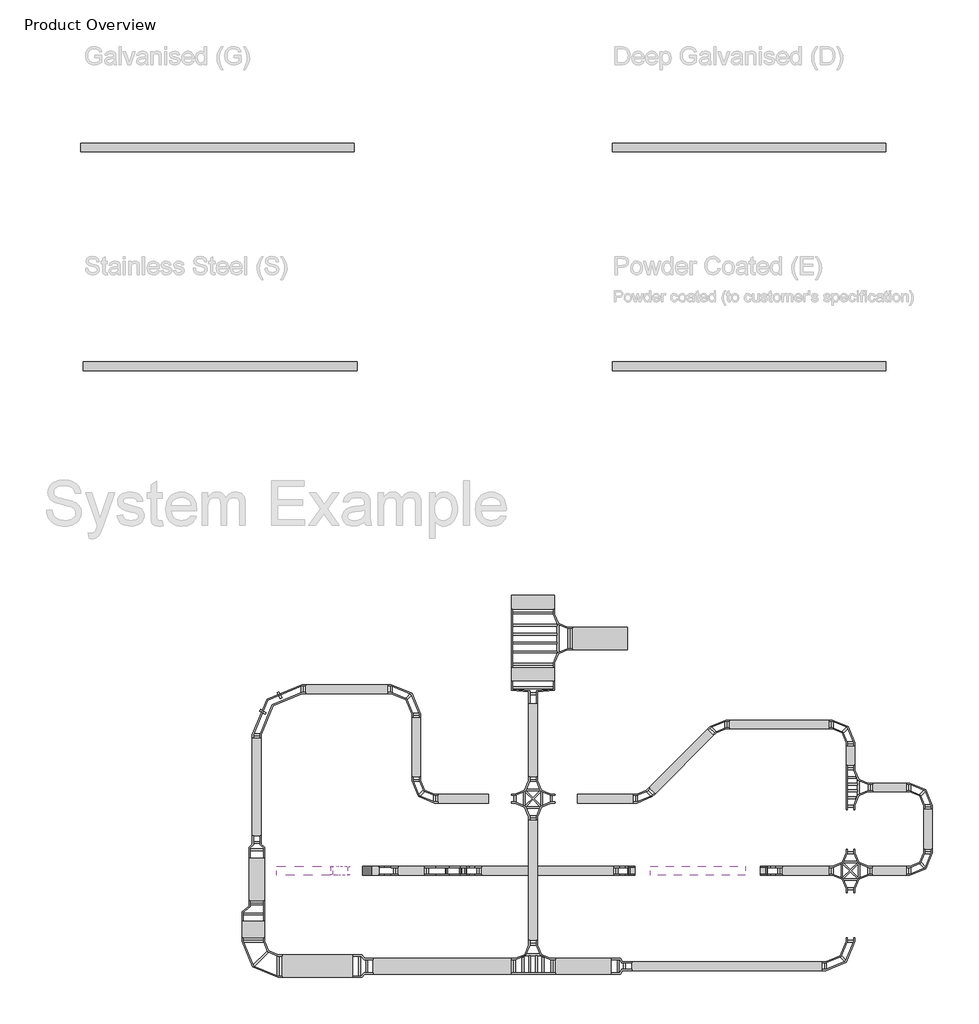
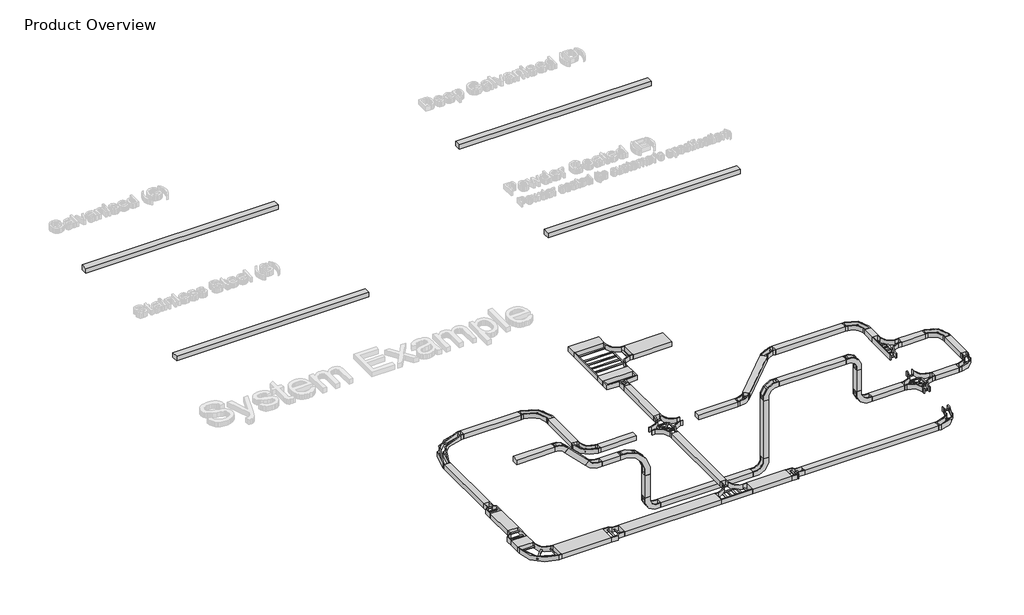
# One storey, part 1 of 11: 35 cable carrier segments, 28 cable carrier fittings.
"""IFC4 building model written with IfcOpenShell, lengths in millimetres."""

from ifc_helpers import new_model, si_unit, frame, origin, place, context, project, spatial, polyline, outline, extrude, transform, mapped, element, save
from components import cable_carrier_fitting_b2991533, cable_carrier_fitting_7aac4970, cable_carrier_fitting_337bc745, cable_carrier_fitting_0715c1ba, cable_carrier_fitting_e11d2789, cable_carrier_fitting_81220605, cable_carrier_fitting_d58a4867, cable_carrier_fitting_db6fad4b, cable_carrier_fitting_f09b7f1c, cable_carrier_fitting_0d3864c6, cable_carrier_fitting_0d86ed4e, cable_carrier_fitting_d8a74605, cable_carrier_fitting_7b7ebac5, cable_carrier_fitting_dfb7f23c, cable_carrier_fitting_bd5dcc2e, cable_carrier_fitting_78e4e9d0, cable_carrier_fitting_687db9e6, cable_carrier_fitting_c8b575a0, cable_carrier_fitting_745f889b

model = new_model("IFC4")

# Units and contexts
model_context = context("Model", 3, world=origin())
ifc_project = project(units=[si_unit("LENGTHUNIT", "METRE", prefix="MILLI")], contexts=[model_context])

# Site, building, storey
site = spatial("IfcSite", under=ifc_project)
building = spatial("IfcBuilding", under=site)
storey = spatial("IfcBuildingStorey", under=building, Name="Product Overview", Elevation=0.0)

# Cable carrier fittings
placement = place(None, origin())
cable_carrier_fitting_shape = cable_carrier_fitting_b2991533(model_context)
element("IfcCableCarrierFitting", 1, ObjectType="Legrand_CableLadder_Swifts_Emerald_FlatBend-13 : Hot Dip Galvanised (after manufacture)", at=placement, inside=storey, context=model_context, shape_type="MappedRepresentation", body=[
    mapped(cable_carrier_fitting_shape, transform((769.4867392, -27158.3924525, 0.0), x_axis=(0.0, 1.0, 0.0), y_axis=(-1.0, 0.0, 0.0), z_axis=(0.0, 0.0, 1.0))),
])
element("IfcCableCarrierFitting", 2, ObjectType="Legrand_CableLadder_Swifts_Emerald_FlatBend-13 : Hot Dip Galvanised (after manufacture)", at=placement, inside=storey, context=model_context, shape_type="MappedRepresentation", body=[
    mapped(cable_carrier_fitting_shape, transform((2469.4867392, -28541.3980362, 0.0), x_axis=(0.0, 1.0, 0.0), y_axis=(-1.0, 0.0, 0.0), z_axis=(0.0, 0.0, 1.0))),
])
element("IfcCableCarrierFitting", 3, ObjectType="Legrand_CableLadder_Swifts_Emerald_FlatBend-13 : Hot Dip Galvanised (after manufacture)", at=placement, inside=storey, context=model_context, shape_type="MappedRepresentation", body=[
    mapped(cable_carrier_fitting_shape, transform((2469.4867392, -30366.3980362, 0.0), x_axis=(1.0, 0.0, 0.0), y_axis=(0.0, 1.0, 0.0), z_axis=(0.0, 0.0, 1.0))),
])
element("IfcCableCarrierFitting", 4, ObjectType="Legrand_CableLadder_Swifts_Emerald_FlatBend-13 : Hot Dip Galvanised (after manufacture)", at=placement, inside=storey, context=model_context, shape_type="MappedRepresentation", body=[
    mapped(cable_carrier_fitting_shape, transform((-8756.8588576, -28784.7380492, 0.0), x_axis=(0.0, -1.0, 0.0), y_axis=(1.0, 0.0, 0.0), z_axis=(0.0, 0.0, 1.0))),
])
cable_carrier_fitting_2_shape = cable_carrier_fitting_7aac4970(model_context)
element("IfcCableCarrierFitting", 5, ObjectType="Legrand_CableLadder_Swifts_Emerald_FlatBend-13 : Hot Dip Galvanised (after manufacture)", at=placement, inside=storey, context=model_context, shape_type="MappedRepresentation", body=[
    mapped(cable_carrier_fitting_2_shape, transform((-2130.5132608, -27158.3924525, 0.0), x_axis=(-1.0, 0.0, 0.0), y_axis=(0.0, -1.0, 0.0), z_axis=(0.0, 0.0, 1.0))),
])
element("IfcCableCarrierFitting", 6, ObjectType="Legrand_CableLadder_Swifts_Emerald_FlatBend-13 : Hot Dip Galvanised (after manufacture)", at=placement, inside=storey, context=model_context, shape_type="MappedRepresentation", body=[
    mapped(cable_carrier_fitting_2_shape, transform((-3756.8588576, -28784.7380492, 0.0), x_axis=(1.0, 0.0, 0.0), y_axis=(0.0, 1.0, 0.0), z_axis=(0.0, 0.0, 1.0))),
])
cable_carrier_fitting_3_shape = cable_carrier_fitting_337bc745(model_context)
element("IfcCableCarrierFitting", 7, ObjectType="Legrand_CableLadder_Swifts_Emerald_FlatBend-13 : Hot Dip Galvanised (after manufacture)", at=placement, inside=storey, context=model_context, shape_type="MappedRepresentation", body=[
    mapped(cable_carrier_fitting_3_shape, transform((-8756.8588576, -26384.7380492, 0.0), x_axis=(0.0, 1.0, 0.0), y_axis=(-1.0, 0.0, 0.0), z_axis=(0.0, 0.0, 1.0))),
])
element("IfcCableCarrierFitting", 8, ObjectType="Legrand_CableLadder_Swifts_Emerald_FlatBend-13 : Hot Dip Galvanised (after manufacture)", at=placement, inside=storey, context=model_context, shape_type="MappedRepresentation", body=[
    mapped(cable_carrier_fitting_3_shape, transform((769.4867392, -32458.3924525, 0.0), x_axis=(1.0, 0.0, 0.0), y_axis=(0.0, 1.0, 0.0), z_axis=(0.0, 0.0, 1.0))),
])
cable_carrier_fitting_4_shape = cable_carrier_fitting_0715c1ba(model_context)
element("IfcCableCarrierFitting", 9, ObjectType="Legrand_CableLadder_Swifts_Emerald_FlatBend-13 : Hot Dip Galvanised (after manufacture)", at=placement, inside=storey, context=model_context, shape_type="MappedRepresentation", body=[
    mapped(cable_carrier_fitting_4_shape, transform((-12330.5132608, -32458.3924525, 0.0), x_axis=(0.0, -1.0, 0.0), y_axis=(1.0, 0.0, 0.0), z_axis=(0.0, 0.0, 1.0))),
])
cable_carrier_fitting_5_shape = cable_carrier_fitting_e11d2789(model_context)
element("IfcCableCarrierFitting", 10, ObjectType="Legrand_CableLadder_Swifts_Emerald_InsideRiser-13 : Hot Dip Galvanised (after manufacture)", at=placement, inside=storey, context=model_context, shape_type="MappedRepresentation", body=[
    mapped(cable_carrier_fitting_5_shape, transform((-1130.5132608, -30366.3980362, 0.0), x_axis=(-1.0, 0.0, 0.0), y_axis=(0.0, 0.0, 1.0), z_axis=(0.0, 1.0, 0.0))),
])
element("IfcCableCarrierFitting", 11, ObjectType="Legrand_CableLadder_Swifts_Emerald_InsideRiser-13 : Hot Dip Galvanised (after manufacture)", at=placement, inside=storey, context=model_context, shape_type="MappedRepresentation", body=[
    mapped(cable_carrier_fitting_5_shape, transform((-4030.5132608, -30366.3980362, -1200.0), x_axis=(0.0, 0.0, -1.0), y_axis=(-1.0, 0.0, 0.0), z_axis=(0.0, 1.0, 0.0))),
])
element("IfcCableCarrierFitting", 12, ObjectType="Legrand_CableLadder_Swifts_Emerald_InsideRiser-13 : Hot Dip Galvanised (after manufacture)", at=placement, inside=storey, context=model_context, shape_type="MappedRepresentation", body=[
    mapped(cable_carrier_fitting_5_shape, transform((-7730.5132608, -30366.3980362, -1200.0), x_axis=(-1.0, 0.0, 0.0), y_axis=(0.0, 0.0, 1.0), z_axis=(0.0, 1.0, 0.0))),
])
cable_carrier_fitting_6_shape = cable_carrier_fitting_81220605(model_context)
element("IfcCableCarrierFitting", 13, ObjectType="Legrand_CableLadder_Swifts_Emerald_InsideRiser-13 : Hot Dip Galvanised (after manufacture)", at=placement, inside=storey, context=model_context, shape_type="MappedRepresentation", body=[
    mapped(cable_carrier_fitting_6_shape, transform((-9430.5132608, -30366.3980362, 800.0), x_axis=(-1.0, 0.0, 0.0), y_axis=(0.0, 0.0, 1.0), z_axis=(0.0, 1.0, 0.0))),
])
cable_carrier_fitting_7_shape = cable_carrier_fitting_d58a4867(model_context)
element("IfcCableCarrierFitting", 14, ObjectType="Legrand_CableLadder_Swifts_Emerald_OutsideRiser-13 : Hot Dip Galvanised (after manufacture)", at=placement, inside=storey, context=model_context, shape_type="MappedRepresentation", body=[
    mapped(cable_carrier_fitting_7_shape, transform((-1130.5132608, -30366.3980362, 1500.0), x_axis=(0.0, 0.0, 1.0), y_axis=(-1.0, 0.0, 0.0), z_axis=(0.0, -1.0, 0.0))),
])
element("IfcCableCarrierFitting", 15, ObjectType="Legrand_CableLadder_Swifts_Emerald_OutsideRiser-13 : Hot Dip Galvanised (after manufacture)", at=placement, inside=storey, context=model_context, shape_type="MappedRepresentation", body=[
    mapped(cable_carrier_fitting_7_shape, transform((-4030.5132608, -30366.3980362, 1500.0), x_axis=(-1.0, 0.0, 0.0), y_axis=(0.0, 0.0, -1.0), z_axis=(0.0, -1.0, 0.0))),
])
cable_carrier_fitting_8_shape = cable_carrier_fitting_db6fad4b(model_context)
element("IfcCableCarrierFitting", 16, ObjectType="Legrand_CableLadder_Swifts_Emerald_OutsideRiser-13 : Hot Dip Galvanised (after manufacture)", at=placement, inside=storey, context=model_context, shape_type="MappedRepresentation", body=[
    mapped(cable_carrier_fitting_8_shape, transform((-7730.5132608, -30366.3980362, 800.0), x_axis=(0.0, 0.0, 1.0), y_axis=(-1.0, 0.0, 0.0), z_axis=(0.0, -1.0, 0.0))),
])
cable_carrier_fitting_9_shape = cable_carrier_fitting_f09b7f1c(model_context)
element("IfcCableCarrierFitting", 17, ObjectType="Legrand_CableLadder_Swifts_Emerald_OutsideRiser-13 : Hot Dip Galvanised (after manufacture)", at=placement, inside=storey, context=model_context, shape_type="MappedRepresentation", body=[
    mapped(cable_carrier_fitting_9_shape, transform((-10420.4627545, -30366.3980362, 1789.9494937), x_axis=(-0.7071067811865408, 0.0, 0.7071067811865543), y_axis=(-0.7071067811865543, 0.0, -0.7071067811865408), z_axis=(0.0, -1.0, 0.0))),
])
cable_carrier_fitting_10_shape = cable_carrier_fitting_0d3864c6(model_context)
element("IfcCableCarrierFitting", 18, ObjectType="Legrand_CableLadder_Swifts_Emerald_Reducer-13 : Straight - Hot Dip Galvanised (after manufacture)", at=placement, inside=storey, context=model_context, shape_type="MappedRepresentation", body=[
    mapped(cable_carrier_fitting_10_shape, transform((-4255.5132608, -32458.3924525, 0.0), x_axis=(-1.0, 0.0, 0.0), y_axis=(0.0, 1.0, 0.0), z_axis=(0.0, 0.0, -1.0))),
])
cable_carrier_fitting_11_shape = cable_carrier_fitting_0d86ed4e(model_context)
element("IfcCableCarrierFitting", 19, ObjectType="Legrand_CableLadder_Swifts_Emerald_Reducer-13 : Straight - Hot Dip Galvanised (after manufacture)", at=placement, inside=storey, context=model_context, shape_type="MappedRepresentation", body=[
    mapped(cable_carrier_fitting_11_shape, transform((-12255.5132608, -29843.3924525, 0.0), x_axis=(0.0, 1.0, 0.0), y_axis=(1.0, 0.0, 0.0), z_axis=(0.0, 0.0, -1.0))),
])
cable_carrier_fitting_12_shape = cable_carrier_fitting_d8a74605(model_context)
element("IfcCableCarrierFitting", 20, ObjectType="Legrand_CableLadder_Swifts_Emerald_Reducer-13 : Straight - Hot Dip Galvanised (after manufacture)", at=placement, inside=storey, context=model_context, shape_type="MappedRepresentation", body=[
    mapped(cable_carrier_fitting_12_shape, transform((-6193.7516843, -26449.8669756, 0.0), x_axis=(0.0, 1.0, 0.0), y_axis=(1.0, 0.0, 0.0), z_axis=(0.0, 0.0, -1.0))),
])
cable_carrier_fitting_13_shape = cable_carrier_fitting_7b7ebac5(model_context)
element("IfcCableCarrierFitting", 21, ObjectType="Legrand_CableLadder_Swifts_Emerald_Tee-300R-13 : Hot Dip Galvanised (after manufacture)", at=placement, inside=storey, context=model_context, shape_type="MappedRepresentation", body=[
    mapped(cable_carrier_fitting_13_shape, transform((-6193.7516843, -32458.3924525, 0.0), x_axis=(-1.0, 0.0, 0.0), y_axis=(0.0, -1.0, 0.0), z_axis=(0.0, 0.0, 1.0))),
])
cable_carrier_fitting_14_shape = cable_carrier_fitting_dfb7f23c(model_context)
element("IfcCableCarrierFitting", 22, ObjectType="Legrand_CableLadder_Swifts_Emerald_Tee-300R-13 : Hot Dip Galvanised (after manufacture)", at=placement, inside=storey, context=model_context, shape_type="MappedRepresentation", body=[
    mapped(cable_carrier_fitting_14_shape, transform((-6193.7516843, -25274.8669756, 0.0), x_axis=(0.0, 1.0, 0.0), y_axis=(-1.0, 0.0, 0.0), z_axis=(0.0, 0.0, 1.0))),
])
cable_carrier_fitting_15_shape = cable_carrier_fitting_bd5dcc2e(model_context)
element("IfcCableCarrierFitting", 23, ObjectType="Legrand_CableLadder_Swifts_Emerald_FlatBend-13 : Hot Dip Galvanised (after manufacture)", at=placement, inside=storey, context=model_context, shape_type="MappedRepresentation", body=[
    mapped(cable_carrier_fitting_15_shape, transform((-12255.5132608, -26384.7380492, 0.0), x_axis=(-1.0, 0.0, 0.0), y_axis=(0.0, -1.0, 0.0), z_axis=(0.0, 0.0, 1.0))),
])
cable_carrier_fitting_16_shape = cable_carrier_fitting_78e4e9d0(model_context)
element("IfcCableCarrierFitting", 24, ObjectType="Legrand_CableLadder_Swifts_Emerald_Tee-300R-13 : Hot Dip Galvanised (after manufacture)", at=placement, inside=storey, context=model_context, shape_type="MappedRepresentation", body=[
    mapped(cable_carrier_fitting_16_shape, transform((769.4867392, -28541.3980362, 0.0), x_axis=(0.0, 1.0, 0.0), y_axis=(-1.0, 0.0, 0.0), z_axis=(0.0, 0.0, 1.0))),
])
cable_carrier_fitting_17_shape = cable_carrier_fitting_687db9e6(model_context)
element("IfcCableCarrierFitting", 25, ObjectType="Legrand_CableLadder_Swifts_Emerald_Cross-300R-13 : Hot Dip Galvanised (after manufacture)", at=placement, inside=storey, context=model_context, shape_type="MappedRepresentation", body=[
    mapped(cable_carrier_fitting_17_shape, transform((769.4867392, -30366.3980362, 0.0), x_axis=(-1.0, 0.0, 0.0), y_axis=(0.0, -1.0, 0.0), z_axis=(0.0, 0.0, 1.0))),
])
element("IfcCableCarrierFitting", 26, ObjectType="Legrand_CableLadder_Swifts_Emerald_Cross-300R-13 : Hot Dip Galvanised (after manufacture)", at=placement, inside=storey, context=model_context, shape_type="MappedRepresentation", body=[
    mapped(cable_carrier_fitting_17_shape, transform((-6193.7516843, -28784.7380492, 0.0), x_axis=(0.0, -1.0, 0.0), y_axis=(1.0, 0.0, 0.0), z_axis=(0.0, 0.0, 1.0))),
])
cable_carrier_fitting_18_shape = cable_carrier_fitting_c8b575a0(model_context)
element("IfcCableCarrierFitting", 27, ObjectType="Legrand_CableLadder_Swifts_Emerald_Reducer-13 : Straight - Hot Dip Galvanised (after manufacture)", at=placement, inside=storey, context=model_context, shape_type="MappedRepresentation", body=[
    mapped(cable_carrier_fitting_18_shape, transform((-9930.5132608, -32458.3924525, 0.0), x_axis=(-1.0, 0.0, 0.0), y_axis=(0.0, 1.0, 0.0), z_axis=(0.0, 0.0, -1.0))),
])
cable_carrier_fitting_19_shape = cable_carrier_fitting_745f889b(model_context)
element("IfcCableCarrierFitting", 28, ObjectType="Legrand_CableLadder_Swifts_Emerald_Reducer-13 : Right Hand - Hot Dip Galvanised (after manufacture)", at=placement, inside=storey, context=model_context, shape_type="MappedRepresentation", body=[
    mapped(cable_carrier_fitting_19_shape, transform((-12330.5132608, -31243.3924525, 0.0), x_axis=(0.0, -1.0, 0.0), y_axis=(-1.0, 0.0, 0.0), z_axis=(0.0, 0.0, -1.0))),
])

# Cable carrier segments
element("IfcCableCarrierSegment", 29, ObjectType="Swifts Cable Ladder - Emerald - Hot Dip Galvanised (after manufacture)", at=placement, inside=storey, context=model_context, shape_type="SweptSolid", body=[
    extrude(outline(polyline([(-16116.5659778, -14605.2353756), (-16116.5659778, -14411.2353756), (-10116.5659778, -14411.2353756), (-10116.5659778, -14605.2353756), (-16116.5659778, -14605.2353756)])), frame((0.0, 0.0, -75.0), z_axis=(0.0, 0.0, 1.0), x_axis=(1.0, 0.0, 0.0)), (0.0, 0.0, 1.0), 150.0),
])
element("IfcCableCarrierSegment", 30, ObjectType="Swifts Cable Ladder - Emerald - Stainless Steel", at=placement, inside=storey, context=model_context, shape_type="SweptSolid", body=[
    extrude(outline(polyline([(-16056.5659778, -19405.2353756), (-16056.5659778, -19211.2353756), (-10056.5659778, -19211.2353756), (-10056.5659778, -19405.2353756), (-16056.5659778, -19405.2353756)])), frame((0.0, 0.0, -75.0), z_axis=(0.0, 0.0, 1.0), x_axis=(1.0, 0.0, 0.0)), (0.0, 0.0, 1.0), 150.0),
])
element("IfcCableCarrierSegment", 31, ObjectType="Swifts Cable Ladder - Emerald - Deep Galvanized", at=placement, inside=storey, context=model_context, shape_type="SweptSolid", body=[
    extrude(outline(polyline([(-4456.5659778, -14605.2353756), (-4456.5659778, -14411.2353756), (1543.4340222, -14411.2353756), (1543.4340222, -14605.2353756), (-4456.5659778, -14605.2353756)])), frame((0.0, 0.0, -75.0), z_axis=(0.0, 0.0, 1.0), x_axis=(1.0, 0.0, 0.0)), (0.0, 0.0, 1.0), 150.0),
])
element("IfcCableCarrierSegment", 32, ObjectType="Swifts Cable Ladder - Emerald - Powder Coated", at=placement, inside=storey, context=model_context, shape_type="SweptSolid", body=[
    extrude(outline(polyline([(-4456.5659778, -19405.2353756), (-4456.5659778, -19211.2353756), (1543.4340222, -19211.2353756), (1543.4340222, -19405.2353756), (-4456.5659778, -19405.2353756)])), frame((0.0, 0.0, -75.0), z_axis=(0.0, 0.0, 1.0), x_axis=(1.0, 0.0, 0.0)), (0.0, 0.0, 1.0), 150.0),
])
element("IfcCableCarrierSegment", 33, ObjectType="Swifts Cable Ladder - Emerald - Hot Dip Galvanised (after manufacture)", at=placement, inside=storey, context=model_context, shape_type="SweptSolid", body=[
    extrude(outline(polyline([(-11703.5132608, -32705.3924525), (-11703.5132608, -32211.3924525), (-10155.5132608, -32211.3924525), (-10155.5132608, -32705.3924525), (-11703.5132608, -32705.3924525)])), frame((0.0, 0.0, -75.0), z_axis=(0.0, 0.0, 1.0), x_axis=(1.0, 0.0, 0.0)), (0.0, 0.0, 1.0), 150.0),
])
element("IfcCableCarrierSegment", 34, ObjectType="Swifts Cable Ladder - Emerald - Hot Dip Galvanised (after manufacture)", at=placement, inside=storey, context=model_context, shape_type="SweptSolid", body=[
    extrude(outline(polyline([(-5704.0016843, -32630.3924525), (-5704.0016843, -32286.3924525), (-4480.5132608, -32286.3924525), (-4480.5132608, -32630.3924525), (-5704.0016843, -32630.3924525)])), frame((0.0, 0.0, -75.0), z_axis=(0.0, 0.0, 1.0), x_axis=(1.0, 0.0, 0.0)), (0.0, 0.0, 1.0), 150.0),
])
element("IfcCableCarrierSegment", 35, ObjectType="Swifts Cable Ladder - Emerald - Hot Dip Galvanised (after manufacture)", at=placement, inside=storey, context=model_context, shape_type="SweptSolid", body=[
    extrude(outline(polyline([(-4030.5132608, -32555.3924525), (-4030.5132608, -32361.3924525), (142.4867392, -32361.3924525), (142.4867392, -32555.3924525), (-4030.5132608, -32555.3924525)])), frame((0.0, 0.0, -75.0), z_axis=(0.0, 0.0, 1.0), x_axis=(1.0, 0.0, 0.0)), (0.0, 0.0, 1.0), 150.0),
])
element("IfcCableCarrierSegment", 36, ObjectType="Swifts Cable Ladder - Emerald - Hot Dip Galvanised (after manufacture)", at=placement, inside=storey, context=model_context, shape_type="SweptSolid", body=[
    extrude(outline(polyline([(866.4867392, -28051.6480362), (672.4867392, -28051.6480362), (672.4867392, -27635.3924525), (866.4867392, -27635.3924525), (866.4867392, -28051.6480362)])), frame((0.0, 0.0, -75.0), z_axis=(0.0, 0.0, 1.0), x_axis=(1.0, 0.0, 0.0)), (0.0, 0.0, 1.0), 150.0),
])
element("IfcCableCarrierSegment", 37, ObjectType="Swifts Cable Ladder - Emerald - Hot Dip Galvanised (after manufacture)", at=placement, inside=storey, context=model_context, shape_type="SweptSolid", body=[
    extrude(outline(polyline([(292.4867392, -27061.3924525), (292.4867392, -27255.3924525), (-1886.0704766, -27255.3924525), (-1886.0704766, -27061.3924525), (292.4867392, -27061.3924525)])), frame((0.0, 0.0, -75.0), z_axis=(0.0, 0.0, 1.0), x_axis=(1.0, 0.0, 0.0)), (0.0, 0.0, 1.0), 150.0),
])
element("IfcCableCarrierSegment", 38, ObjectType="Swifts Cable Ladder - Emerald - Hot Dip Galvanised (after manufacture)", at=placement, inside=storey, context=model_context, shape_type="SweptSolid", body=[
    extrude(outline(polyline([(-2371.949769, -27262.6502451), (-2234.7710534, -27399.8289606), (-3515.4223494, -28680.4802566), (-3652.601065, -28543.3015411), (-2371.949769, -27262.6502451)])), frame((0.0, 0.0, -75.0), z_axis=(0.0, 0.0, 1.0), x_axis=(1.0, 0.0, 0.0)), (0.0, 0.0, 1.0), 150.0),
])
element("IfcCableCarrierSegment", 39, ObjectType="Swifts Cable Ladder - Emerald - Hot Dip Galvanised (after manufacture)", at=placement, inside=storey, context=model_context, shape_type="SweptSolid", body=[
    extrude(outline(polyline([(-8279.8588576, -28881.7380492), (-8279.8588576, -28687.7380492), (-7170.7516843, -28687.7380492), (-7170.7516843, -28881.7380492), (-8279.8588576, -28881.7380492)])), frame((0.0, 0.0, -75.0), z_axis=(0.0, 0.0, 1.0), x_axis=(1.0, 0.0, 0.0)), (0.0, 0.0, 1.0), 150.0),
])
element("IfcCableCarrierSegment", 40, ObjectType="Swifts Cable Ladder - Emerald - Hot Dip Galvanised (after manufacture)", at=placement, inside=storey, context=model_context, shape_type="SweptSolid", body=[
    extrude(outline(polyline([(-8659.8588576, -28307.7380492), (-8853.8588576, -28307.7380492), (-8853.8588576, -27011.7380492), (-8659.8588576, -27011.7380492), (-8659.8588576, -28307.7380492)])), frame((0.0, 0.0, -75.0), z_axis=(0.0, 0.0, 1.0), x_axis=(1.0, 0.0, 0.0)), (0.0, 0.0, 1.0), 150.0),
])
element("IfcCableCarrierSegment", 41, ObjectType="Swifts Cable Ladder - Emerald - Hot Dip Galvanised (after manufacture)", at=placement, inside=storey, context=model_context, shape_type="SweptSolid", body=[
    extrude(outline(polyline([(1259.2367392, -28638.3980362), (1259.2367392, -28444.3980362), (1992.4867392, -28444.3980362), (1992.4867392, -28638.3980362), (1259.2367392, -28638.3980362)])), frame((0.0, 0.0, -75.0), z_axis=(0.0, 0.0, 1.0), x_axis=(1.0, 0.0, 0.0)), (0.0, 0.0, 1.0), 150.0),
])
element("IfcCableCarrierSegment", 42, ObjectType="Swifts Cable Ladder - Emerald - Hot Dip Galvanised (after manufacture)", at=placement, inside=storey, context=model_context, shape_type="SweptSolid", body=[
    extrude(outline(polyline([(2372.4867392, -29018.3980362), (2566.4867392, -29018.3980362), (2566.4867392, -29889.3980362), (2372.4867392, -29889.3980362), (2372.4867392, -29018.3980362)])), frame((0.0, 0.0, -75.0), z_axis=(0.0, 0.0, 1.0), x_axis=(1.0, 0.0, 0.0)), (0.0, 0.0, 1.0), 150.0),
])
element("IfcCableCarrierSegment", 43, ObjectType="Swifts Cable Ladder - Emerald - Hot Dip Galvanised (after manufacture)", at=placement, inside=storey, context=model_context, shape_type="SweptSolid", body=[
    extrude(outline(polyline([(292.4867392, -30269.3980362), (292.4867392, -30463.3980362), (-725.0132608, -30463.3980362), (-725.0132608, -30269.3980362), (292.4867392, -30269.3980362)])), frame((0.0, 0.0, -75.0), z_axis=(0.0, 0.0, 1.0), x_axis=(1.0, 0.0, 0.0)), (0.0, 0.0, 1.0), 150.0),
])
element("IfcCableCarrierSegment", 44, ObjectType="Swifts Cable Ladder - Emerald - Hot Dip Galvanised (after manufacture)", at=placement, inside=storey, context=model_context, shape_type="SweptSolid", body=[
    extrude(outline(polyline([(1992.4867392, -30269.3980362), (1992.4867392, -30463.3980362), (1246.4867392, -30463.3980362), (1246.4867392, -30269.3980362), (1992.4867392, -30269.3980362)])), frame((0.0, 0.0, -75.0), z_axis=(0.0, 0.0, 1.0), x_axis=(1.0, 0.0, 0.0)), (0.0, 0.0, 1.0), 150.0),
])
element("IfcCableCarrierSegment", 45, ObjectType="Swifts Cable Ladder - Emerald - Hot Dip Galvanised (after manufacture)", at=placement, inside=storey, context=model_context, shape_type="SweptSolid", body=[
    extrude(outline(polyline([(-5721.7516843, -24635.1169756), (-6665.7516843, -24635.1169756), (-6665.7516843, -24324.8669756), (-5721.7516843, -24324.8669756), (-5721.7516843, -24635.1169756)])), frame((0.0, 0.0, -75.0), z_axis=(0.0, 0.0, 1.0), x_axis=(1.0, 0.0, 0.0)), (0.0, 0.0, 1.0), 150.0),
])
element("IfcCableCarrierSegment", 46, ObjectType="Swifts Cable Ladder - Emerald - Hot Dip Galvanised (after manufacture)", at=placement, inside=storey, context=model_context, shape_type="SweptSolid", body=[
    extrude(outline(polyline([(-6290.7516843, -26699.8669756), (-6096.7516843, -26699.8669756), (-6096.7516843, -28307.7380492), (-6290.7516843, -28307.7380492), (-6290.7516843, -26699.8669756)])), frame((0.0, 0.0, -75.0), z_axis=(0.0, 0.0, 1.0), x_axis=(1.0, 0.0, 0.0)), (0.0, 0.0, 1.0), 150.0),
])
element("IfcCableCarrierSegment", 47, ObjectType="Swifts Cable Ladder - Emerald - Hot Dip Galvanised (after manufacture)", at=placement, inside=storey, context=model_context, shape_type="SweptSolid", body=[
    extrude(outline(polyline([(-4001.3016418, -28687.7380492), (-4001.3016418, -28881.7380492), (-5216.7516843, -28881.7380492), (-5216.7516843, -28687.7380492), (-4001.3016418, -28687.7380492)])), frame((0.0, 0.0, -75.0), z_axis=(0.0, 0.0, 1.0), x_axis=(1.0, 0.0, 0.0)), (0.0, 0.0, 1.0), 150.0),
])
element("IfcCableCarrierSegment", 48, ObjectType="Swifts Cable Ladder - Emerald - Hot Dip Galvanised (after manufacture)", at=placement, inside=storey, context=model_context, shape_type="SweptSolid", body=[
    extrude(outline(polyline([(-6096.7516843, -31893.6424525), (-6290.7516843, -31893.6424525), (-6290.7516843, -29261.7380492), (-6096.7516843, -29261.7380492), (-6096.7516843, -31893.6424525)])), frame((0.0, 0.0, -75.0), z_axis=(0.0, 0.0, 1.0), x_axis=(1.0, 0.0, 0.0)), (0.0, 0.0, 1.0), 150.0),
])
element("IfcCableCarrierSegment", 49, ObjectType="Swifts Cable Ladder - Emerald - Hot Dip Galvanised (after manufacture)", at=placement, inside=storey, context=model_context, shape_type="SweptSolid", body=[
    extrude(outline(polyline([(-9705.5132608, -32630.3924525), (-9705.5132608, -32286.3924525), (-6683.5016843, -32286.3924525), (-6683.5016843, -32630.3924525), (-9705.5132608, -32630.3924525)])), frame((0.0, 0.0, -75.0), z_axis=(0.0, 0.0, 1.0), x_axis=(1.0, 0.0, 0.0)), (0.0, 0.0, 1.0), 150.0),
])
element("IfcCableCarrierSegment", 50, ObjectType="Swifts Cable Ladder - Emerald - Hot Dip Galvanised (after manufacture)", at=placement, inside=storey, context=model_context, shape_type="SweptSolid", body=[
    extrude(outline(polyline([(-5329.0016843, -25521.8669756), (-5329.0016843, -25027.8669756), (-4118.7516843, -25027.8669756), (-4118.7516843, -25521.8669756), (-5329.0016843, -25521.8669756)])), frame((0.0, 0.0, -75.0), z_axis=(0.0, 0.0, 1.0), x_axis=(1.0, 0.0, 0.0)), (0.0, 0.0, 1.0), 150.0),
])
element("IfcCableCarrierSegment", 51, ObjectType="Swifts Cable Ladder - Emerald - Hot Dip Galvanised (after manufacture)", at=placement, inside=storey, context=model_context, shape_type="SweptSolid", body=[
    extrude(outline(polyline([(-6665.7516843, -25914.6169756), (-5721.7516843, -25914.6169756), (-5721.7516843, -26199.8669756), (-6665.7516843, -26199.8669756), (-6665.7516843, -25914.6169756)])), frame((0.0, 0.0, -75.0), z_axis=(0.0, 0.0, 1.0), x_axis=(1.0, 0.0, 0.0)), (0.0, 0.0, 1.0), 150.0),
])
element("IfcCableCarrierSegment", 52, ObjectType="Swifts Cable Ladder - Emerald - Hot Dip Galvanised (after manufacture)", at=placement, inside=storey, context=model_context, shape_type="SweptSolid", body=[
    extrude(outline(polyline([(-1205.5132608, -30269.3980362), (-1055.5132608, -30269.3980362), (-1055.5132608, -30463.3980362), (-1205.5132608, -30463.3980362), (-1205.5132608, -30269.3980362)])), frame((0.0, 0.0, 405.5), z_axis=(0.0, 0.0, 1.0), x_axis=(1.0, 0.0, 0.0)), (0.0, 0.0, 1.0), 689.0),
])
element("IfcCableCarrierSegment", 53, ObjectType="Swifts Cable Ladder - Emerald - Hot Dip Galvanised (after manufacture)", at=placement, inside=storey, context=model_context, shape_type="SweptSolid", body=[
    extrude(outline(polyline([(-1532.2132608, -30269.3980362), (-1532.2132608, -30463.3980362), (-3625.0132608, -30463.3980362), (-3625.0132608, -30269.3980362), (-1532.2132608, -30269.3980362)])), frame((0.0, 0.0, 1425.0), z_axis=(0.0, 0.0, 1.0), x_axis=(1.0, 0.0, 0.0)), (0.0, 0.0, 1.0), 150.0),
])
element("IfcCableCarrierSegment", 54, ObjectType="Swifts Cable Ladder - Emerald - Hot Dip Galvanised (after manufacture)", at=placement, inside=storey, context=model_context, shape_type="SweptSolid", body=[
    extrude(outline(polyline([(-3955.5132608, -30269.3980362), (-3955.5132608, -30463.3980362), (-4105.5132608, -30463.3980362), (-4105.5132608, -30269.3980362), (-3955.5132608, -30269.3980362)])), frame((0.0, 0.0, -794.5), z_axis=(0.0, 0.0, 1.0), x_axis=(1.0, 0.0, 0.0)), (0.0, 0.0, 1.0), 1892.8),
])
element("IfcCableCarrierSegment", 55, ObjectType="Swifts Cable Ladder - Emerald - Hot Dip Galvanised (after manufacture)", at=placement, inside=storey, context=model_context, shape_type="SweptSolid", body=[
    extrude(outline(polyline([(-4436.0132608, -30269.3980362), (-4436.0132608, -30463.3980362), (-7325.0132608, -30463.3980362), (-7325.0132608, -30269.3980362), (-4436.0132608, -30269.3980362)])), frame((0.0, 0.0, -1275.0), z_axis=(0.0, 0.0, 1.0), x_axis=(1.0, 0.0, 0.0)), (0.0, 0.0, 1.0), 150.0),
])
element("IfcCableCarrierSegment", 56, ObjectType="Swifts Cable Ladder - Emerald - Hot Dip Galvanised (after manufacture)", at=placement, inside=storey, context=model_context, shape_type="SweptSolid", body=[
    extrude(outline(polyline([(-7805.5132608, -30269.3980362), (-7655.5132608, -30269.3980362), (-7655.5132608, -30463.3980362), (-7805.5132608, -30463.3980362), (-7805.5132608, -30269.3980362)])), frame((0.0, 0.0, -794.5), z_axis=(0.0, 0.0, 1.0), x_axis=(1.0, 0.0, 0.0)), (0.0, 0.0, 1.0), 739.0),
])
element("IfcCableCarrierSegment", 57, ObjectType="Swifts Cable Ladder - Emerald - Hot Dip Galvanised (after manufacture)", at=placement, inside=storey, context=model_context, shape_type="SweptSolid", body=[
    extrude(outline(polyline([(-8582.2132608, -30269.3980362), (-8582.2132608, -30463.3980362), (-9153.5547119, -30463.3980362), (-9153.5547119, -30269.3980362), (-8582.2132608, -30269.3980362)])), frame((0.0, 0.0, 725.0), z_axis=(0.0, 0.0, 1.0), x_axis=(1.0, 0.0, 0.0)), (0.0, 0.0, 1.0), 150.0),
])
element("IfcCableCarrierSegment", 58, ObjectType="Swifts Cable Ladder - Emerald - Hot Dip Galvanised (after manufacture)", at=placement, inside=storey, context=model_context, shape_type="SweptSolid", body=[
    extrude(outline(polyline([(0.0, -194.0), (0.0, 0.0), (908.2149365, 0.0), (908.2149365, -194.0), (0.0, -194.0)])), frame((-9679.3855375, -30463.3980362, 942.8062595), z_axis=(0.7071067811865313, 0.0, 0.7071067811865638), x_axis=(-0.7071067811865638, 0.0, 0.7071067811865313)), (0.0, 0.0, 1.0), 150.0),
])
element("IfcCableCarrierSegment", 59, ObjectType="Swifts Cable Ladder - Emerald - Hot Dip Galvanised (after manufacture)", at=placement, inside=storey, context=model_context, shape_type="SweptSolid", body=[
    extrude(outline(polyline([(-10631.489269, -30269.3980362), (-10631.489269, -30463.3980362), (-11820.4627545, -30463.3980362), (-11820.4627545, -30269.3980362), (-10631.489269, -30269.3980362)])), frame((0.0, 0.0, 1714.9494937), z_axis=(0.0, 0.0, 1.0), x_axis=(1.0, 0.0, 0.0)), (0.0, 0.0, 1.0), 150.0),
])
element("IfcCableCarrierSegment", 60, ObjectType="Swifts Cable Ladder - Emerald - Hot Dip Galvanised (after manufacture)", at=placement, inside=storey, context=model_context, shape_type="SweptSolid", body=[
    extrude(outline(polyline([(-12083.5132608, -31831.3924525), (-12577.5132608, -31831.3924525), (-12577.5132608, -31468.3924525), (-12083.5132608, -31468.3924525), (-12083.5132608, -31831.3924525)])), frame((0.0, 0.0, -75.0), z_axis=(0.0, 0.0, 1.0), x_axis=(1.0, 0.0, 0.0)), (0.0, 0.0, 1.0), 150.0),
])
element("IfcCableCarrierSegment", 61, ObjectType="Swifts Cable Ladder - Emerald - Hot Dip Galvanised (after manufacture)", at=placement, inside=storey, context=model_context, shape_type="SweptSolid", body=[
    extrude(outline(polyline([(-12083.5132608, -31018.3924525), (-12427.5132608, -31018.3924525), (-12427.5132608, -30093.3924525), (-12083.5132608, -30093.3924525), (-12083.5132608, -31018.3924525)])), frame((0.0, 0.0, -75.0), z_axis=(0.0, 0.0, 1.0), x_axis=(1.0, 0.0, 0.0)), (0.0, 0.0, 1.0), 150.0),
])
element("IfcCableCarrierSegment", 62, ObjectType="Swifts Cable Ladder - Emerald - Hot Dip Galvanised (after manufacture)", at=placement, inside=storey, context=model_context, shape_type="SweptSolid", body=[
    extrude(outline(polyline([(-12352.5132608, -27461.7380492), (-12158.5132608, -27461.7380492), (-12158.5132608, -29593.3924525), (-12352.5132608, -29593.3924525), (-12352.5132608, -27461.7380492)])), frame((0.0, 0.0, -75.0), z_axis=(0.0, 0.0, 1.0), x_axis=(1.0, 0.0, 0.0)), (0.0, 0.0, 1.0), 150.0),
])
element("IfcCableCarrierSegment", 63, ObjectType="Swifts Cable Ladder - Emerald - Hot Dip Galvanised (after manufacture)", at=placement, inside=storey, context=model_context, shape_type="SweptSolid", body=[
    extrude(outline(polyline([(-9383.8588576, -26287.7380492), (-9383.8588576, -26481.7380492), (-11178.5132608, -26481.7380492), (-11178.5132608, -26287.7380492), (-9383.8588576, -26287.7380492)])), frame((0.0, 0.0, -75.0), z_axis=(0.0, 0.0, 1.0), x_axis=(1.0, 0.0, 0.0)), (0.0, 0.0, 1.0), 150.0),
])

save(model, "model.ifc")
